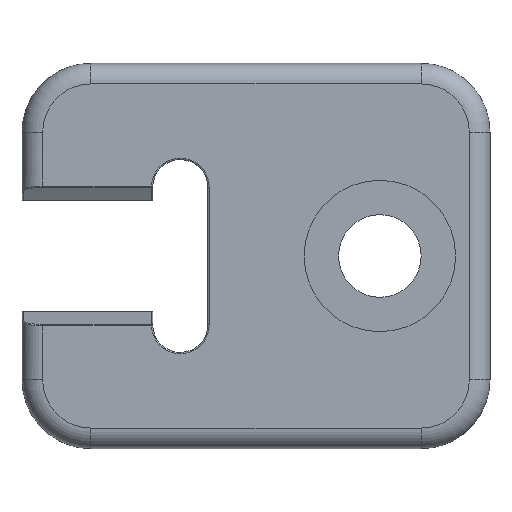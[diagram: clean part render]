
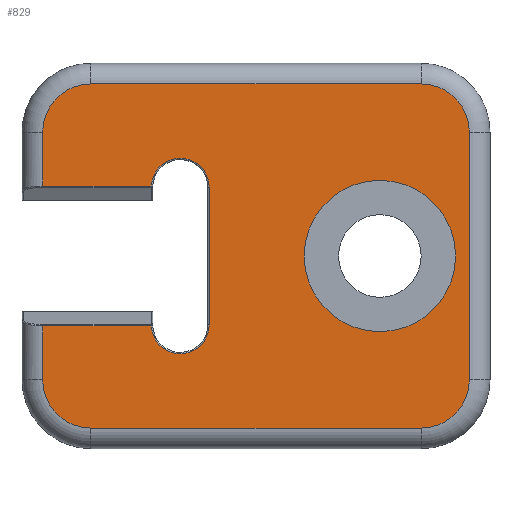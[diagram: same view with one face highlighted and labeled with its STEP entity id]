
A CAD part, front view. The second image highlights one B-rep face of the part: STEP entity #829.
In plain terms, the highlighted planar face has unit normal (0, -1, 0).
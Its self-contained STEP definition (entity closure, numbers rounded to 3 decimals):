
#16 = AXIS2_PLACEMENT_3D ( 'NONE', #1922, #840, #576 ) ;
#24 = EDGE_CURVE ( 'NONE', #1234, #902, #1545, .T. ) ;
#45 = CARTESIAN_POINT ( 'NONE',  ( -11., -10., 26.5 ) ) ;
#49 = DIRECTION ( 'NONE',  ( -1., 0., 0. ) ) ;
#115 = CIRCLE ( 'NONE', #16, 3.5 ) ;
#127 = VECTOR ( 'NONE', #2927, 1000. ) ;
#134 = AXIS2_PLACEMENT_3D ( 'NONE', #2546, #1128, #1825 ) ;
#144 = VERTEX_POINT ( 'NONE', #1958 ) ;
#197 = FACE_OUTER_BOUND ( 'NONE', #625, .T. ) ;
#198 = ORIENTED_EDGE ( 'NONE', *, *, #1441, .T. ) ;
#212 = VERTEX_POINT ( 'NONE', #785 ) ;
#233 = CIRCLE ( 'NONE', #1972, 2.1 ) ;
#244 = VERTEX_POINT ( 'NONE', #2693 ) ;
#288 = DIRECTION ( 'NONE',  ( 0., -1., 0. ) ) ;
#307 = EDGE_CURVE ( 'NONE', #144, #1504, #2518, .T. ) ;
#316 = CARTESIAN_POINT ( 'NONE',  ( -11., -10., 23. ) ) ;
#321 = LINE ( 'NONE', #1781, #127 ) ;
#376 = CIRCLE ( 'NONE', #974, 3.5 ) ;
#410 = DIRECTION ( 'NONE',  ( 0., 0., -1. ) ) ;
#412 = CARTESIAN_POINT ( 'NONE',  ( -4.5, -10., 9. ) ) ;
#543 = CARTESIAN_POINT ( 'NONE',  ( 15.5, -10., 14. ) ) ;
#555 = LINE ( 'NONE', #1276, #1507 ) ;
#576 = DIRECTION ( 'NONE',  ( -1., 0., 0. ) ) ;
#583 = ORIENTED_EDGE ( 'NONE', *, *, #2274, .T. ) ;
#598 = CARTESIAN_POINT ( 'NONE',  ( -14.5, -10., 28. ) ) ;
#613 = ORIENTED_EDGE ( 'NONE', *, *, #856, .T. ) ;
#625 = EDGE_LOOP ( 'NONE', ( #2790, #1657, #836, #2730, #583, #2899, #1854, #1648, #2911, #2632, #963, #198, #1077, #613 ) ) ;
#644 = VECTOR ( 'NONE', #882, 1000. ) ;
#655 = VERTEX_POINT ( 'NONE', #1983 ) ;
#671 = EDGE_LOOP ( 'NONE', ( #971 ) ) ;
#679 = CARTESIAN_POINT ( 'NONE',  ( -14.5, -10., 8.922 ) ) ;
#684 = DIRECTION ( 'NONE',  ( -1., 0., 0. ) ) ;
#726 = CARTESIAN_POINT ( 'NONE',  ( -2.4, -10., 19. ) ) ;
#785 = CARTESIAN_POINT ( 'NONE',  ( -14.5, -10., 19.078 ) ) ;
#794 = EDGE_CURVE ( 'NONE', #1886, #878, #1641, .T. ) ;
#829 = ADVANCED_FACE ( 'NONE', ( #3048, #197 ), #1611, .F. ) ;
#836 = ORIENTED_EDGE ( 'NONE', *, *, #307, .T. ) ;
#840 = DIRECTION ( 'NONE',  ( 0., -1., 0. ) ) ;
#856 = EDGE_CURVE ( 'NONE', #1355, #1886, #2794, .T. ) ;
#875 = DIRECTION ( 'NONE',  ( 1., 0., 0. ) ) ;
#878 = VERTEX_POINT ( 'NONE', #2136 ) ;
#882 = DIRECTION ( 'NONE',  ( 0., 0., 1. ) ) ;
#902 = VERTEX_POINT ( 'NONE', #2420 ) ;
#963 = ORIENTED_EDGE ( 'NONE', *, *, #24, .T. ) ;
#971 = ORIENTED_EDGE ( 'NONE', *, *, #2701, .F. ) ;
#974 = AXIS2_PLACEMENT_3D ( 'NONE', #1374, #3001, #2314 ) ;
#986 = CARTESIAN_POINT ( 'NONE',  ( 10., -10., 14. ) ) ;
#987 = EDGE_CURVE ( 'NONE', #2153, #244, #115, .T. ) ;
#997 = VERTEX_POINT ( 'NONE', #1517 ) ;
#1047 = VERTEX_POINT ( 'NONE', #543 ) ;
#1077 = ORIENTED_EDGE ( 'NONE', *, *, #2499, .T. ) ;
#1128 = DIRECTION ( 'NONE',  ( 0., 1., 0. ) ) ;
#1162 = VECTOR ( 'NONE', #1782, 1000. ) ;
#1167 = AXIS2_PLACEMENT_3D ( 'NONE', #986, #288, #2657 ) ;
#1177 = EDGE_CURVE ( 'NONE', #244, #1234, #1606, .T. ) ;
#1202 = VECTOR ( 'NONE', #1558, 1000. ) ;
#1206 = VECTOR ( 'NONE', #875, 1000. ) ;
#1213 = EDGE_CURVE ( 'NONE', #655, #2153, #3015, .T. ) ;
#1234 = VERTEX_POINT ( 'NONE', #45 ) ;
#1276 = CARTESIAN_POINT ( 'NONE',  ( -14.5, -10., 28. ) ) ;
#1346 = EDGE_CURVE ( 'NONE', #1504, #2329, #2134, .T. ) ;
#1351 = DIRECTION ( 'NONE',  ( -1., 0., 0. ) ) ;
#1355 = VERTEX_POINT ( 'NONE', #2465 ) ;
#1358 = DIRECTION ( 'NONE',  ( 0., 1., 0. ) ) ;
#1374 = CARTESIAN_POINT ( 'NONE',  ( 13., -10., 5. ) ) ;
#1380 = CARTESIAN_POINT ( 'NONE',  ( -16., -10., 19.078 ) ) ;
#1441 = EDGE_CURVE ( 'NONE', #902, #212, #555, .T. ) ;
#1504 = VERTEX_POINT ( 'NONE', #679 ) ;
#1507 = VECTOR ( 'NONE', #2432, 1000. ) ;
#1517 = CARTESIAN_POINT ( 'NONE',  ( 13., -10., 1.5 ) ) ;
#1545 = CIRCLE ( 'NONE', #2764, 3.5 ) ;
#1558 = DIRECTION ( 'NONE',  ( 0., 0., -1. ) ) ;
#1606 = LINE ( 'NONE', #2586, #2825 ) ;
#1611 = PLANE ( 'NONE',  #2204 ) ;
#1641 = LINE ( 'NONE', #2773, #1914 ) ;
#1648 = ORIENTED_EDGE ( 'NONE', *, *, #1213, .T. ) ;
#1657 = ORIENTED_EDGE ( 'NONE', *, *, #2535, .T. ) ;
#1679 = CARTESIAN_POINT ( 'NONE',  ( -11., -10., 5. ) ) ;
#1767 = DIRECTION ( 'NONE',  ( -1., 0., 0. ) ) ;
#1781 = CARTESIAN_POINT ( 'NONE',  ( -16., -10., 1.5 ) ) ;
#1782 = DIRECTION ( 'NONE',  ( -1., 0., 0. ) ) ;
#1825 = DIRECTION ( 'NONE',  ( -1., 0., 0. ) ) ;
#1827 = CARTESIAN_POINT ( 'NONE',  ( -11., -10., 1.5 ) ) ;
#1853 = CIRCLE ( 'NONE', #2344, 3.5 ) ;
#1854 = ORIENTED_EDGE ( 'NONE', *, *, #2815, .T. ) ;
#1855 = DIRECTION ( 'NONE',  ( 0., 1., 0. ) ) ;
#1877 = LINE ( 'NONE', #1380, #1206 ) ;
#1886 = VERTEX_POINT ( 'NONE', #726 ) ;
#1914 = VECTOR ( 'NONE', #410, 1000. ) ;
#1922 = CARTESIAN_POINT ( 'NONE',  ( 13., -10., 23. ) ) ;
#1958 = CARTESIAN_POINT ( 'NONE',  ( -6.599, -10., 8.922 ) ) ;
#1972 = AXIS2_PLACEMENT_3D ( 'NONE', #412, #1358, #2299 ) ;
#1983 = CARTESIAN_POINT ( 'NONE',  ( 16.5, -10., 5. ) ) ;
#2045 = CARTESIAN_POINT ( 'NONE',  ( -16., -10., 8.922 ) ) ;
#2127 = CARTESIAN_POINT ( 'NONE',  ( 16.5, -10., 23. ) ) ;
#2134 = LINE ( 'NONE', #598, #1202 ) ;
#2136 = CARTESIAN_POINT ( 'NONE',  ( -2.4, -10., 9. ) ) ;
#2153 = VERTEX_POINT ( 'NONE', #2127 ) ;
#2204 = AXIS2_PLACEMENT_3D ( 'NONE', #2806, #1855, #684 ) ;
#2226 = DIRECTION ( 'NONE',  ( 0., -1., 0. ) ) ;
#2274 = EDGE_CURVE ( 'NONE', #2329, #2428, #1853, .T. ) ;
#2299 = DIRECTION ( 'NONE',  ( -1., 0., 0. ) ) ;
#2313 = CARTESIAN_POINT ( 'NONE',  ( 16.5, -10., 28. ) ) ;
#2314 = DIRECTION ( 'NONE',  ( -1., 0., 0. ) ) ;
#2328 = EDGE_CURVE ( 'NONE', #2428, #997, #321, .T. ) ;
#2329 = VERTEX_POINT ( 'NONE', #2503 ) ;
#2344 = AXIS2_PLACEMENT_3D ( 'NONE', #1679, #2612, #1767 ) ;
#2420 = CARTESIAN_POINT ( 'NONE',  ( -14.5, -10., 23. ) ) ;
#2428 = VERTEX_POINT ( 'NONE', #1827 ) ;
#2432 = DIRECTION ( 'NONE',  ( 0., 0., -1. ) ) ;
#2465 = CARTESIAN_POINT ( 'NONE',  ( -6.599, -10., 19.078 ) ) ;
#2499 = EDGE_CURVE ( 'NONE', #212, #1355, #1877, .T. ) ;
#2503 = CARTESIAN_POINT ( 'NONE',  ( -14.5, -10., 5. ) ) ;
#2504 = CIRCLE ( 'NONE', #1167, 5.5 ) ;
#2518 = LINE ( 'NONE', #2045, #1162 ) ;
#2535 = EDGE_CURVE ( 'NONE', #878, #144, #233, .T. ) ;
#2546 = CARTESIAN_POINT ( 'NONE',  ( -4.5, -10., 19. ) ) ;
#2586 = CARTESIAN_POINT ( 'NONE',  ( -11., -10., 26.5 ) ) ;
#2612 = DIRECTION ( 'NONE',  ( 0., -1., 0. ) ) ;
#2632 = ORIENTED_EDGE ( 'NONE', *, *, #1177, .T. ) ;
#2657 = DIRECTION ( 'NONE',  ( 1., 0., 0. ) ) ;
#2693 = CARTESIAN_POINT ( 'NONE',  ( 13., -10., 26.5 ) ) ;
#2701 = EDGE_CURVE ( 'NONE', #1047, #1047, #2504, .T. ) ;
#2730 = ORIENTED_EDGE ( 'NONE', *, *, #1346, .T. ) ;
#2764 = AXIS2_PLACEMENT_3D ( 'NONE', #316, #2226, #49 ) ;
#2773 = CARTESIAN_POINT ( 'NONE',  ( -2.4, -10., 28. ) ) ;
#2790 = ORIENTED_EDGE ( 'NONE', *, *, #794, .T. ) ;
#2794 = CIRCLE ( 'NONE', #134, 2.1 ) ;
#2806 = CARTESIAN_POINT ( 'NONE',  ( -16., -10., 28. ) ) ;
#2815 = EDGE_CURVE ( 'NONE', #997, #655, #376, .T. ) ;
#2825 = VECTOR ( 'NONE', #1351, 1000. ) ;
#2899 = ORIENTED_EDGE ( 'NONE', *, *, #2328, .T. ) ;
#2911 = ORIENTED_EDGE ( 'NONE', *, *, #987, .T. ) ;
#2927 = DIRECTION ( 'NONE',  ( 1., 0., 0. ) ) ;
#3001 = DIRECTION ( 'NONE',  ( 0., -1., 0. ) ) ;
#3015 = LINE ( 'NONE', #2313, #644 ) ;
#3048 = FACE_BOUND ( 'NONE', #671, .T. ) ;
